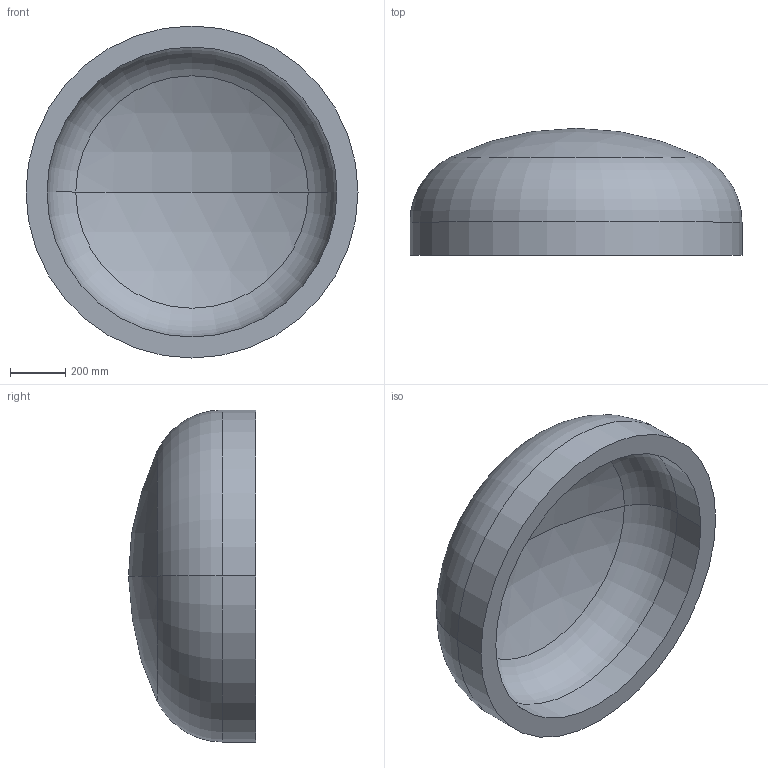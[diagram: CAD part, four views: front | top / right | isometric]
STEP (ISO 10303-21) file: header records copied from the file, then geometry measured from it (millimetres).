
FILE_DESCRIPTION (( 'STEP AP203' ), '1' );
FILE_NAME ('DIN 28013 Korbbogenform_-_Boden DIN 28013 - 1200 x 120 - I - s=76.step', '2016-07-01T09:34:35', ( '' ), ( '' ), 'SwSTEP 2.0', 'SolidWorks 2013', '' );
FILE_SCHEMA (( 'CONFIG_CONTROL_DESIGN' ));
Length unit declared in the file: millimetre
Products named in the file (1): DIN 28013 Korbbogenform_-_Boden DIN 28013 - 1200 x 120 - I - s=76
Bounding box: 1200 x 459.08 x 1200 mm (x, y, z)
Volume: 142064217.5 mm3; surface area: 4018995.9 mm2
Topology: 1 solids, 1 shells, 13 faces, 24 edges, 14 vertices
Faces by surface type: torus 4, cylinder 4, sphere 4, plane 1
Entity records: 407 total; most frequent: DIRECTION 72, CARTESIAN_POINT 52, ORIENTED_EDGE 48, AXIS2_PLACEMENT_3D 34, EDGE_CURVE 24, CIRCLE 20, VERTEX_POINT 14, EDGE_LOOP 14
